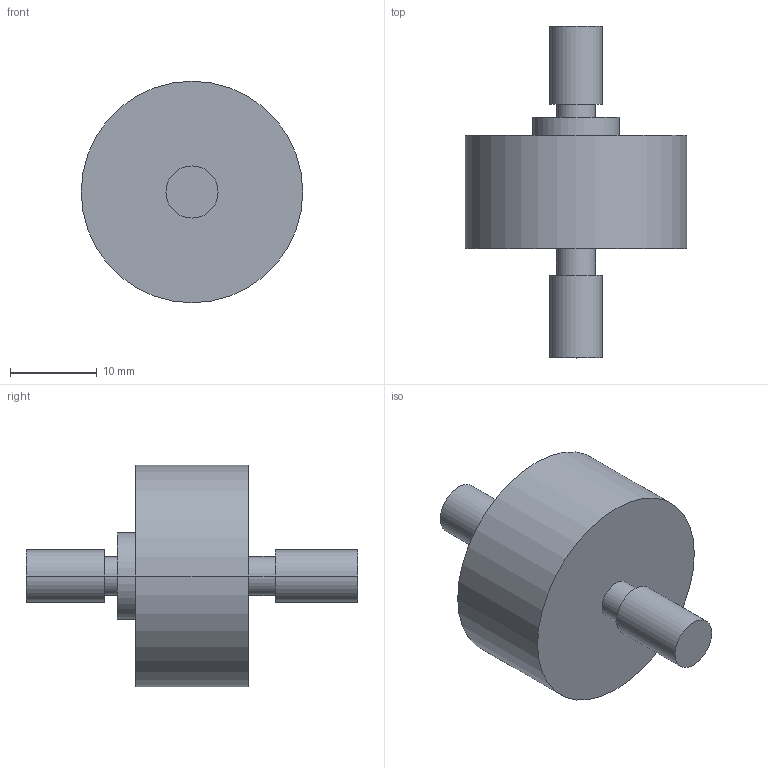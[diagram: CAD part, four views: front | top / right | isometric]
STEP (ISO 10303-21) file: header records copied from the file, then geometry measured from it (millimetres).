
FILE_DESCRIPTION (( 'STEP AP203' ), '1' );
FILE_NAME ('reb7-100kg.STEP', '2017-12-01T06:48:23', ( '' ), ( '' ), 'SwSTEP 2.0', 'SolidWorks 2016', '' );
FILE_SCHEMA (( 'CONFIG_CONTROL_DESIGN' ));
Length unit declared in the file: millimetre
Products named in the file (1): reb7-100kg
Bounding box: 25.5 x 38.2 x 25.5 mm (x, y, z)
Volume: 7400.3 mm3; surface area: 2592 mm2
Topology: 1 solids, 1 shells, 19 faces, 36 edges, 24 vertices
Faces by surface type: cylinder 12, plane 7
Entity records: 571 total; most frequent: DIRECTION 100, CARTESIAN_POINT 80, ORIENTED_EDGE 72, AXIS2_PLACEMENT_3D 44, EDGE_CURVE 36, EDGE_LOOP 24, VERTEX_POINT 24, CIRCLE 24
